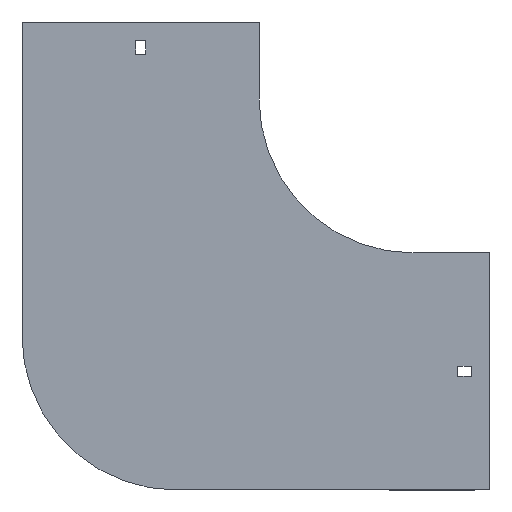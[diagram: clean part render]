
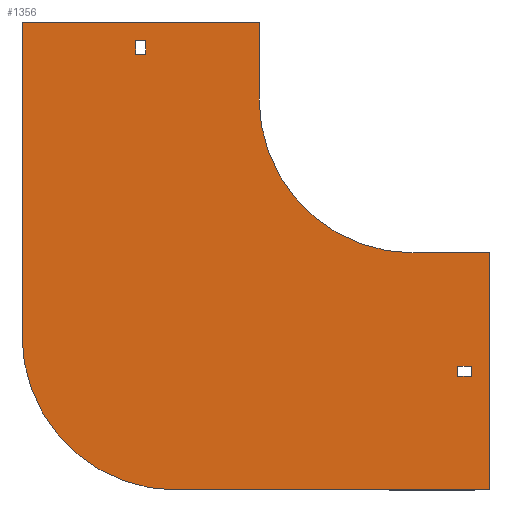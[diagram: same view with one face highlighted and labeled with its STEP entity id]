
A CAD part, front view. The second image highlights one B-rep face of the part: STEP entity #1356.
In plain terms, the highlighted planar face has unit normal (0, -1, 0).
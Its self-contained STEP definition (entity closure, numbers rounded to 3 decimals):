
#1 = DIRECTION ( 'NONE',  ( 0., 0., 1. ) ) ;
#30 = LINE ( 'NONE', #203, #683 ) ;
#64 = VERTEX_POINT ( 'NONE', #525 ) ;
#72 = VECTOR ( 'NONE', #1745, 1000. ) ;
#77 = LINE ( 'NONE', #665, #810 ) ;
#87 = EDGE_CURVE ( 'NONE', #745, #1868, #1133, .T. ) ;
#90 = VERTEX_POINT ( 'NONE', #1283 ) ;
#91 = DIRECTION ( 'NONE',  ( -1., 0., 0. ) ) ;
#170 = VERTEX_POINT ( 'NONE', #1907 ) ;
#176 = DIRECTION ( 'NONE',  ( 1., 0., 0. ) ) ;
#189 = VERTEX_POINT ( 'NONE', #1179 ) ;
#193 = VECTOR ( 'NONE', #604, 1000. ) ;
#198 = VERTEX_POINT ( 'NONE', #1031 ) ;
#203 = CARTESIAN_POINT ( 'NONE',  ( -180.25, 0., 29. ) ) ;
#213 = EDGE_CURVE ( 'NONE', #189, #64, #1000, .T. ) ;
#229 = CARTESIAN_POINT ( 'NONE',  ( -180.25, 0., 38. ) ) ;
#242 = DIRECTION ( 'NONE',  ( 1., 0., 0. ) ) ;
#243 = CARTESIAN_POINT ( 'NONE',  ( -180.25, 0., 29. ) ) ;
#258 = ORIENTED_EDGE ( 'NONE', *, *, #621, .T. ) ;
#268 = CARTESIAN_POINT ( 'NONE',  ( -100., 0., 50. ) ) ;
#279 = VECTOR ( 'NONE', #91, 1000. ) ;
#281 = ORIENTED_EDGE ( 'NONE', *, *, #396, .F. ) ;
#303 = CARTESIAN_POINT ( 'NONE',  ( 29., 0., -180.25 ) ) ;
#312 = VECTOR ( 'NONE', #392, 1000. ) ;
#331 = DIRECTION ( 'NONE',  ( 0., 0., 1. ) ) ;
#340 = CARTESIAN_POINT ( 'NONE',  ( -154., 0., -254. ) ) ;
#350 = AXIS2_PLACEMENT_3D ( 'NONE', #552, #980, #1322 ) ;
#358 = VERTEX_POINT ( 'NONE', #1799 ) ;
#369 = ORIENTED_EDGE ( 'NONE', *, *, #213, .T. ) ;
#392 = DIRECTION ( 'NONE',  ( 0., 0., 1. ) ) ;
#396 = EDGE_CURVE ( 'NONE', #90, #1351, #1855, .T. ) ;
#415 = ORIENTED_EDGE ( 'NONE', *, *, #1798, .F. ) ;
#440 = CARTESIAN_POINT ( 'NONE',  ( -154., 0., -154. ) ) ;
#466 = VERTEX_POINT ( 'NONE', #243 ) ;
#476 = VECTOR ( 'NONE', #1422, 1000. ) ;
#494 = LINE ( 'NONE', #1682, #1467 ) ;
#525 = CARTESIAN_POINT ( 'NONE',  ( -173.75, 0., 29. ) ) ;
#552 = CARTESIAN_POINT ( 'NONE',  ( 0., 0., 0. ) ) ;
#563 = VERTEX_POINT ( 'NONE', #1344 ) ;
#565 = EDGE_CURVE ( 'NONE', #64, #466, #1181, .T. ) ;
#604 = DIRECTION ( 'NONE',  ( 0., 0., -1. ) ) ;
#609 = ORIENTED_EDGE ( 'NONE', *, *, #710, .F. ) ;
#621 = EDGE_CURVE ( 'NONE', #920, #189, #494, .T. ) ;
#622 = CARTESIAN_POINT ( 'NONE',  ( 50., 0., -254. ) ) ;
#625 = EDGE_LOOP ( 'NONE', ( #815, #609, #415, #1654, #1291, #1561, #281, #1163 ) ) ;
#627 = VERTEX_POINT ( 'NONE', #340 ) ;
#630 = DIRECTION ( 'NONE',  ( -1., 0., 0. ) ) ;
#650 = LINE ( 'NONE', #622, #1005 ) ;
#665 = CARTESIAN_POINT ( 'NONE',  ( -254., 0., 50. ) ) ;
#683 = VECTOR ( 'NONE', #1836, 1000. ) ;
#687 = PLANE ( 'NONE',  #350 ) ;
#710 = EDGE_CURVE ( 'NONE', #198, #1625, #1872, .T. ) ;
#712 = FACE_BOUND ( 'NONE', #1643, .T. ) ;
#718 = LINE ( 'NONE', #1352, #193 ) ;
#745 = VERTEX_POINT ( 'NONE', #1292 ) ;
#754 = EDGE_CURVE ( 'NONE', #563, #745, #1906, .T. ) ;
#810 = VECTOR ( 'NONE', #1390, 1000. ) ;
#814 = CARTESIAN_POINT ( 'NONE',  ( -100., 0., 50. ) ) ;
#815 = ORIENTED_EDGE ( 'NONE', *, *, #1521, .F. ) ;
#816 = CARTESIAN_POINT ( 'NONE',  ( -254., 0., 50. ) ) ;
#822 = CARTESIAN_POINT ( 'NONE',  ( 29., 0., -173.75 ) ) ;
#832 = CARTESIAN_POINT ( 'NONE',  ( 29., 0., -180.25 ) ) ;
#834 = LINE ( 'NONE', #1127, #72 ) ;
#847 = VECTOR ( 'NONE', #1271, 1000. ) ;
#860 = EDGE_LOOP ( 'NONE', ( #1541, #258, #369, #1081 ) ) ;
#892 = DIRECTION ( 'NONE',  ( 0., -1., 0. ) ) ;
#897 = VERTEX_POINT ( 'NONE', #268 ) ;
#899 = DIRECTION ( 'NONE',  ( -1., 0., 0. ) ) ;
#920 = VERTEX_POINT ( 'NONE', #229 ) ;
#980 = DIRECTION ( 'NONE',  ( 0., -1., 0. ) ) ;
#990 = FACE_BOUND ( 'NONE', #860, .T. ) ;
#998 = CARTESIAN_POINT ( 'NONE',  ( -254., 0., -154. ) ) ;
#1000 = LINE ( 'NONE', #1595, #1948 ) ;
#1005 = VECTOR ( 'NONE', #630, 1000. ) ;
#1031 = CARTESIAN_POINT ( 'NONE',  ( -254., 0., -154. ) ) ;
#1046 = DIRECTION ( 'NONE',  ( 0., 1., 0. ) ) ;
#1072 = CIRCLE ( 'NONE', #1384, 100. ) ;
#1081 = ORIENTED_EDGE ( 'NONE', *, *, #565, .T. ) ;
#1083 = EDGE_CURVE ( 'NONE', #466, #920, #30, .T. ) ;
#1111 = EDGE_CURVE ( 'NONE', #170, #627, #650, .T. ) ;
#1127 = CARTESIAN_POINT ( 'NONE',  ( 0., 0., -100. ) ) ;
#1133 = LINE ( 'NONE', #1693, #847 ) ;
#1163 = ORIENTED_EDGE ( 'NONE', *, *, #1268, .F. ) ;
#1166 = EDGE_CURVE ( 'NONE', #1351, #358, #834, .T. ) ;
#1179 = CARTESIAN_POINT ( 'NONE',  ( -173.75, 0., 38. ) ) ;
#1181 = LINE ( 'NONE', #1792, #1238 ) ;
#1206 = LINE ( 'NONE', #1634, #1297 ) ;
#1221 = CARTESIAN_POINT ( 'NONE',  ( 38., 0., -180.25 ) ) ;
#1238 = VECTOR ( 'NONE', #899, 1000. ) ;
#1268 = EDGE_CURVE ( 'NONE', #897, #90, #1570, .T. ) ;
#1271 = DIRECTION ( 'NONE',  ( 0., 0., -1. ) ) ;
#1281 = ORIENTED_EDGE ( 'NONE', *, *, #87, .F. ) ;
#1283 = CARTESIAN_POINT ( 'NONE',  ( -100., 0., 0. ) ) ;
#1291 = ORIENTED_EDGE ( 'NONE', *, *, #1378, .F. ) ;
#1292 = CARTESIAN_POINT ( 'NONE',  ( 29., 0., -173.75 ) ) ;
#1297 = VECTOR ( 'NONE', #331, 1000. ) ;
#1313 = AXIS2_PLACEMENT_3D ( 'NONE', #1818, #892, #1810 ) ;
#1322 = DIRECTION ( 'NONE',  ( 0., 0., -1. ) ) ;
#1332 = EDGE_CURVE ( 'NONE', #1868, #1933, #1587, .T. ) ;
#1344 = CARTESIAN_POINT ( 'NONE',  ( 38., 0., -173.75 ) ) ;
#1351 = VERTEX_POINT ( 'NONE', #1742 ) ;
#1352 = CARTESIAN_POINT ( 'NONE',  ( 50., 0., -100. ) ) ;
#1356 = ADVANCED_FACE ( 'NONE', ( #990, #1465, #712 ), #687, .T. ) ;
#1378 = EDGE_CURVE ( 'NONE', #358, #170, #718, .T. ) ;
#1384 = AXIS2_PLACEMENT_3D ( 'NONE', #440, #1046, #1 ) ;
#1386 = ORIENTED_EDGE ( 'NONE', *, *, #1851, .F. ) ;
#1390 = DIRECTION ( 'NONE',  ( 1., 0., 0. ) ) ;
#1422 = DIRECTION ( 'NONE',  ( 0., 0., -1. ) ) ;
#1445 = VECTOR ( 'NONE', #242, 1000. ) ;
#1446 = DIRECTION ( 'NONE',  ( 0., 0., -1. ) ) ;
#1465 = FACE_OUTER_BOUND ( 'NONE', #625, .T. ) ;
#1467 = VECTOR ( 'NONE', #176, 1000. ) ;
#1521 = EDGE_CURVE ( 'NONE', #1625, #897, #77, .T. ) ;
#1528 = ORIENTED_EDGE ( 'NONE', *, *, #754, .F. ) ;
#1541 = ORIENTED_EDGE ( 'NONE', *, *, #1083, .T. ) ;
#1545 = ORIENTED_EDGE ( 'NONE', *, *, #1332, .F. ) ;
#1561 = ORIENTED_EDGE ( 'NONE', *, *, #1166, .F. ) ;
#1570 = LINE ( 'NONE', #814, #476 ) ;
#1587 = LINE ( 'NONE', #832, #1445 ) ;
#1595 = CARTESIAN_POINT ( 'NONE',  ( -173.75, 0., 29. ) ) ;
#1625 = VERTEX_POINT ( 'NONE', #816 ) ;
#1634 = CARTESIAN_POINT ( 'NONE',  ( 38., 0., -180.25 ) ) ;
#1643 = EDGE_LOOP ( 'NONE', ( #1386, #1545, #1281, #1528 ) ) ;
#1654 = ORIENTED_EDGE ( 'NONE', *, *, #1111, .F. ) ;
#1682 = CARTESIAN_POINT ( 'NONE',  ( -180.25, 0., 38. ) ) ;
#1693 = CARTESIAN_POINT ( 'NONE',  ( 29., 0., -180.25 ) ) ;
#1742 = CARTESIAN_POINT ( 'NONE',  ( 0., 0., -100. ) ) ;
#1745 = DIRECTION ( 'NONE',  ( 1., 0., 0. ) ) ;
#1792 = CARTESIAN_POINT ( 'NONE',  ( -180.25, 0., 29. ) ) ;
#1798 = EDGE_CURVE ( 'NONE', #627, #198, #1072, .T. ) ;
#1799 = CARTESIAN_POINT ( 'NONE',  ( 50., 0., -100. ) ) ;
#1810 = DIRECTION ( 'NONE',  ( 0., 0., -1. ) ) ;
#1818 = CARTESIAN_POINT ( 'NONE',  ( 0., 0., 0. ) ) ;
#1836 = DIRECTION ( 'NONE',  ( 0., 0., 1. ) ) ;
#1851 = EDGE_CURVE ( 'NONE', #1933, #563, #1206, .T. ) ;
#1855 = CIRCLE ( 'NONE', #1313, 100. ) ;
#1868 = VERTEX_POINT ( 'NONE', #303 ) ;
#1872 = LINE ( 'NONE', #998, #312 ) ;
#1906 = LINE ( 'NONE', #822, #279 ) ;
#1907 = CARTESIAN_POINT ( 'NONE',  ( 50., 0., -254. ) ) ;
#1933 = VERTEX_POINT ( 'NONE', #1221 ) ;
#1948 = VECTOR ( 'NONE', #1446, 1000. ) ;
